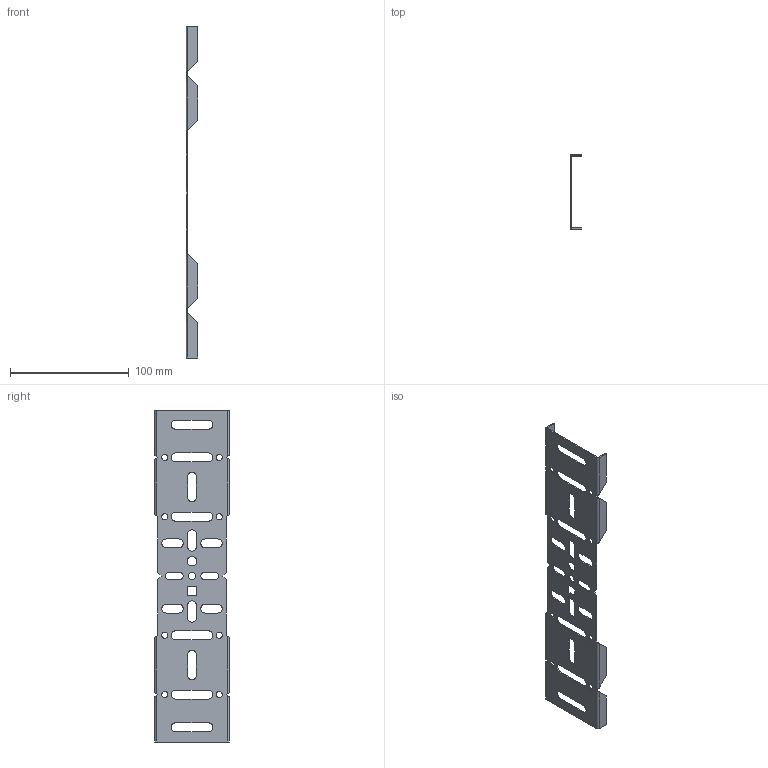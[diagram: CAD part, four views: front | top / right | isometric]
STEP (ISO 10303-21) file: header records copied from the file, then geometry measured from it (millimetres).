
FILE_DESCRIPTION (( 'STEP AP203' ), '1' );
FILE_NAME ('ERE_UNIÓN UNIVERSAL JUER-U H60.step', '2023-07-28T15:05:54', ( '' ), ( '' ), 'SwSTEP 2.0', 'SolidWorks 2022', '' );
FILE_SCHEMA (( 'CONFIG_CONTROL_DESIGN' ));
Length unit declared in the file: millimetre
Products named in the file (1): ERE_UNIÓN UNIVERSAL JUER-U H60
Bounding box: 10 x 63 x 280 mm (x, y, z)
Volume: 16456.9 mm3; surface area: 34836.1 mm2
Topology: 1 solids, 1 shells, 188 faces, 494 edges, 308 vertices
Faces by surface type: plane 104, cylinder 72, bspline 12
Entity records: 6227 total; most frequent: CARTESIAN_POINT 1459, ORIENTED_EDGE 988, DIRECTION 920, EDGE_CURVE 494, VECTOR 326, LINE 326, VERTEX_POINT 308, AXIS2_PLACEMENT_3D 297
